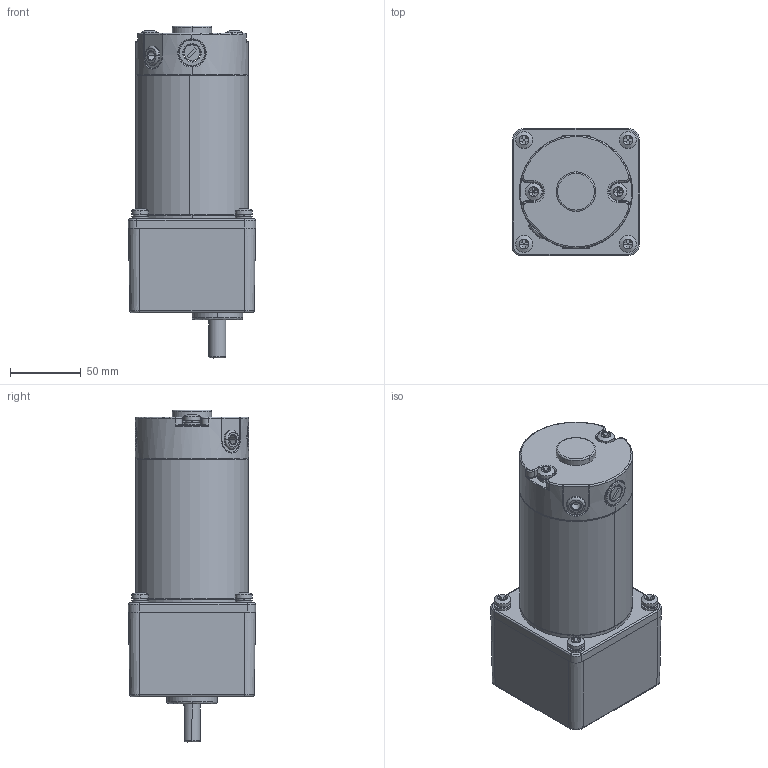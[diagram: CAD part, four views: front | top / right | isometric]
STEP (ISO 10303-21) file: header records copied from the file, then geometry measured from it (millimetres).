
FILE_DESCRIPTION (( 'STEP AP203' ), '1' );
FILE_NAME ('90饜5GU喘謫眊-99儂褲.STEP', '2021-07-12T08:52:28', ( '' ), ( '' ), 'SwSTEP 2.0', 'SolidWorks 2021', '' );
FILE_SCHEMA (( 'CONFIG_CONTROL_DESIGN' ));
Length unit declared in the file: millimetre
Products named in the file (8): TANDIAN_2; LUDING_2; JIKE-99; PENGDIAN_2; 90-2; HOUGAI-80-1_2; QIGAI_1; 90饜5GU喘謫眊-99儂褲
Assembly tree (22 placements, depth 2):
  90饜5GU喘謫眊-99儂褲
    JIKE-99
    QIGAI_1
    TANDIAN_2  x6
    PENGDIAN_2  x6
    LUDING_2  x6
    HOUGAI-80-1_2
    90-2
Bounding box: 90 x 90 x 235 mm (x, y, z)
Volume: 668663.1 mm3; surface area: 148764.9 mm2
Topology: 26 solids, 26 shells, 705 faces, 1656 edges, 1024 vertices
Faces by surface type: cylinder 230, cone 205, plane 180, torus 56, bspline 34
Entity records: 16129 total; most frequent: CARTESIAN_POINT 5741, DIRECTION 2034, ORIENTED_EDGE 1848, EDGE_CURVE 924, AXIS2_PLACEMENT_3D 841, VERTEX_POINT 579, CIRCLE 450, EDGE_LOOP 439
